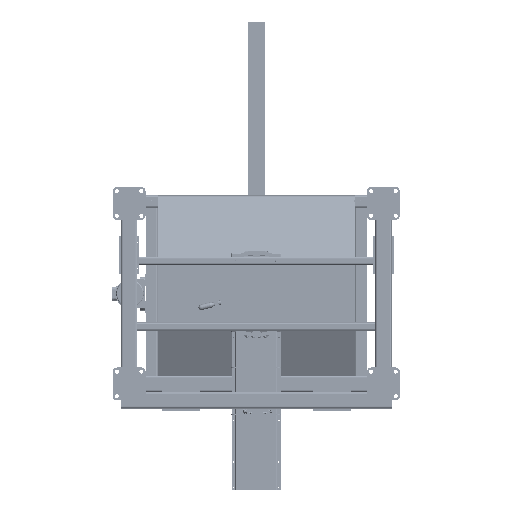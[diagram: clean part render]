
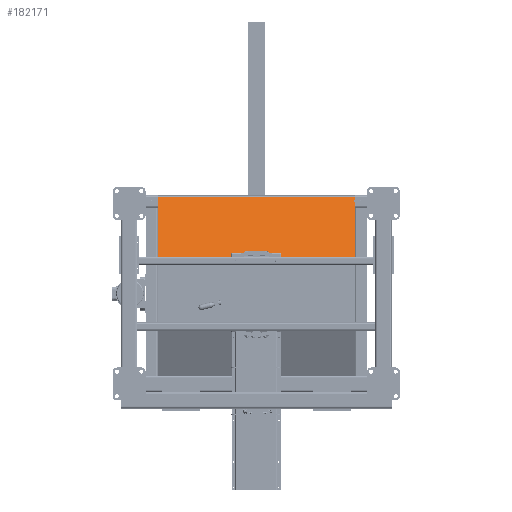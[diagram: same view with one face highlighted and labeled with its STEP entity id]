
A CAD part, front view. The second image highlights one B-rep face of the part: STEP entity #182171.
In plain terms, the highlighted planar face has unit normal (0, -0.883, 0.469).
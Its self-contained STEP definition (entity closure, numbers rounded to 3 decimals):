
#11662=PLANE('',#194637);
#16862=FACE_OUTER_BOUND('',#27730,.T.);
#27730=EDGE_LOOP('',(#123570,#123571,#123572,#123573));
#39610=LINE('',#270862,#53837);
#39634=LINE('',#270923,#53861);
#39635=LINE('',#270926,#53862);
#39636=LINE('',#270927,#53863);
#53837=VECTOR('',#215446,0.394);
#53861=VECTOR('',#215508,0.394);
#53862=VECTOR('',#215511,0.394);
#53863=VECTOR('',#215512,0.394);
#77506=VERTEX_POINT('',#270859);
#77507=VERTEX_POINT('',#270861);
#77525=VERTEX_POINT('',#270921);
#77526=VERTEX_POINT('',#270925);
#95409=EDGE_CURVE('',#77506,#77507,#39610,.T.);
#95440=EDGE_CURVE('',#77525,#77506,#39634,.T.);
#95441=EDGE_CURVE('',#77526,#77525,#39635,.T.);
#95442=EDGE_CURVE('',#77526,#77507,#39636,.T.);
#123570=ORIENTED_EDGE('',*,*,#95440,.F.);
#123571=ORIENTED_EDGE('',*,*,#95441,.F.);
#123572=ORIENTED_EDGE('',*,*,#95442,.T.);
#123573=ORIENTED_EDGE('',*,*,#95409,.F.);
#182171=ADVANCED_FACE('',(#16862),#11662,.T.);
#194637=AXIS2_PLACEMENT_3D('',#270924,#215509,#215510);
#215446=DIRECTION('',(0.,0.469,0.883));
#215508=DIRECTION('',(-1.,0.,0.));
#215509=DIRECTION('center_axis',(0.,-0.883,0.469));
#215510=DIRECTION('ref_axis',(0.,-0.469,-0.883));
#215511=DIRECTION('',(0.,-0.469,-0.883));
#215512=DIRECTION('',(-1.,0.,0.));
#270859=CARTESIAN_POINT('',(-24.,0.036,7.33));
#270861=CARTESIAN_POINT('',(-24.,8.695,23.616));
#270862=CARTESIAN_POINT('',(-24.,0.036,7.33));
#270921=CARTESIAN_POINT('',(24.,0.036,7.33));
#270923=CARTESIAN_POINT('',(0.,0.036,7.33));
#270924=CARTESIAN_POINT('Origin',(0.,8.695,23.616));
#270925=CARTESIAN_POINT('',(24.,8.695,23.616));
#270926=CARTESIAN_POINT('',(24.,0.036,7.33));
#270927=CARTESIAN_POINT('',(0.,8.695,23.616));
